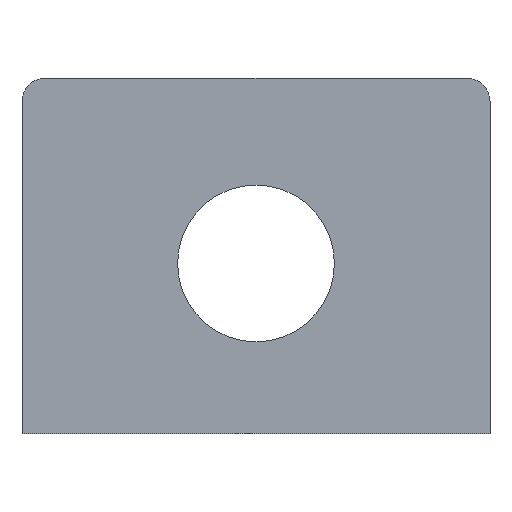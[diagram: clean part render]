
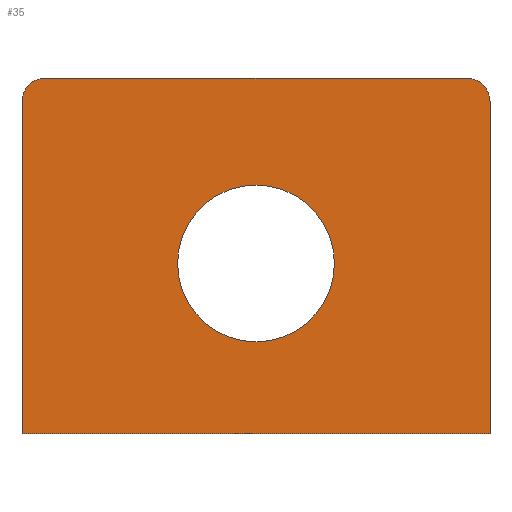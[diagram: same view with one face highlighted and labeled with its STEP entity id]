
A CAD part, front view. The second image highlights one B-rep face of the part: STEP entity #35.
In plain terms, the highlighted planar face has unit normal (0, -1, 0).
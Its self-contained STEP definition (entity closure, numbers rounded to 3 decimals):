
#35 = ADVANCED_FACE('',(#36,#88),#108,.T.);
#36 = FACE_BOUND('',#37,.T.);
#37 = EDGE_LOOP('',(#38,#48,#57,#65,#74,#82));
#38 = ORIENTED_EDGE('',*,*,#39,.F.);
#39 = EDGE_CURVE('',#40,#42,#44,.T.);
#40 = VERTEX_POINT('',#41);
#41 = CARTESIAN_POINT('',(298.5,0.,
    424.));
#42 = VERTEX_POINT('',#43);
#43 = CARTESIAN_POINT('',(298.5,0.,
    0.));
#44 = LINE('',#45,#46);
#45 = CARTESIAN_POINT('',(298.5,0.,
    0.));
#46 = VECTOR('',#47,1.);
#47 = DIRECTION('',(0.,0.,-1.));
#48 = ORIENTED_EDGE('',*,*,#49,.T.);
#49 = EDGE_CURVE('',#40,#50,#52,.T.);
#50 = VERTEX_POINT('',#51);
#51 = CARTESIAN_POINT('',(268.5,0.,
    454.));
#52 = CIRCLE('',#53,30.);
#53 = AXIS2_PLACEMENT_3D('',#54,#55,#56);
#54 = CARTESIAN_POINT('',(268.5,0.,
    424.));
#55 = DIRECTION('',(0.,-1.,0.));
#56 = DIRECTION('',(1.,0.,0.));
#57 = ORIENTED_EDGE('',*,*,#58,.T.);
#58 = EDGE_CURVE('',#50,#59,#61,.T.);
#59 = VERTEX_POINT('',#60);
#60 = CARTESIAN_POINT('',(-268.5,0.,
    454.));
#61 = LINE('',#62,#63);
#62 = CARTESIAN_POINT('',(268.5,0.,
    454.));
#63 = VECTOR('',#64,1.);
#64 = DIRECTION('',(-1.,0.,0.));
#65 = ORIENTED_EDGE('',*,*,#66,.T.);
#66 = EDGE_CURVE('',#59,#67,#69,.T.);
#67 = VERTEX_POINT('',#68);
#68 = CARTESIAN_POINT('',(-298.5,0.,
    424.));
#69 = CIRCLE('',#70,30.);
#70 = AXIS2_PLACEMENT_3D('',#71,#72,#73);
#71 = CARTESIAN_POINT('',(-268.5,0.,
    424.));
#72 = DIRECTION('',(0.,-1.,0.));
#73 = DIRECTION('',(0.,0.,1.));
#74 = ORIENTED_EDGE('',*,*,#75,.T.);
#75 = EDGE_CURVE('',#67,#76,#78,.T.);
#76 = VERTEX_POINT('',#77);
#77 = CARTESIAN_POINT('',(-298.5,0.,
    0.));
#78 = LINE('',#79,#80);
#79 = CARTESIAN_POINT('',(-298.5,0.,
    424.));
#80 = VECTOR('',#81,1.);
#81 = DIRECTION('',(0.,0.,-1.));
#82 = ORIENTED_EDGE('',*,*,#83,.T.);
#83 = EDGE_CURVE('',#76,#42,#84,.T.);
#84 = LINE('',#85,#86);
#85 = CARTESIAN_POINT('',(298.5,0.,
    0.));
#86 = VECTOR('',#87,1.);
#87 = DIRECTION('',(1.,0.,0.));
#88 = FACE_BOUND('',#89,.T.);
#89 = EDGE_LOOP('',(#90,#101));
#90 = ORIENTED_EDGE('',*,*,#91,.T.);
#91 = EDGE_CURVE('',#92,#94,#96,.T.);
#92 = VERTEX_POINT('',#93);
#93 = CARTESIAN_POINT('',(-100.,0.,
    217.5));
#94 = VERTEX_POINT('',#95);
#95 = CARTESIAN_POINT('',(100.,0.,
    217.5));
#96 = CIRCLE('',#97,100.);
#97 = AXIS2_PLACEMENT_3D('',#98,#99,#100);
#98 = CARTESIAN_POINT('',(0.,0.,
    217.5));
#99 = DIRECTION('',(0.,1.,0.));
#100 = DIRECTION('',(1.,0.,-0.));
#101 = ORIENTED_EDGE('',*,*,#102,.T.);
#102 = EDGE_CURVE('',#94,#92,#103,.T.);
#103 = CIRCLE('',#104,100.);
#104 = AXIS2_PLACEMENT_3D('',#105,#106,#107);
#105 = CARTESIAN_POINT('',(0.,0.,
    217.5));
#106 = DIRECTION('',(0.,1.,0.));
#107 = DIRECTION('',(1.,0.,-0.));
#108 = PLANE('',#109);
#109 = AXIS2_PLACEMENT_3D('',#110,#111,#112);
#110 = CARTESIAN_POINT('',(-273.5,0.,
    0.));
#111 = DIRECTION('',(0.,-1.,0.));
#112 = DIRECTION('',(0.,0.,-1.));
